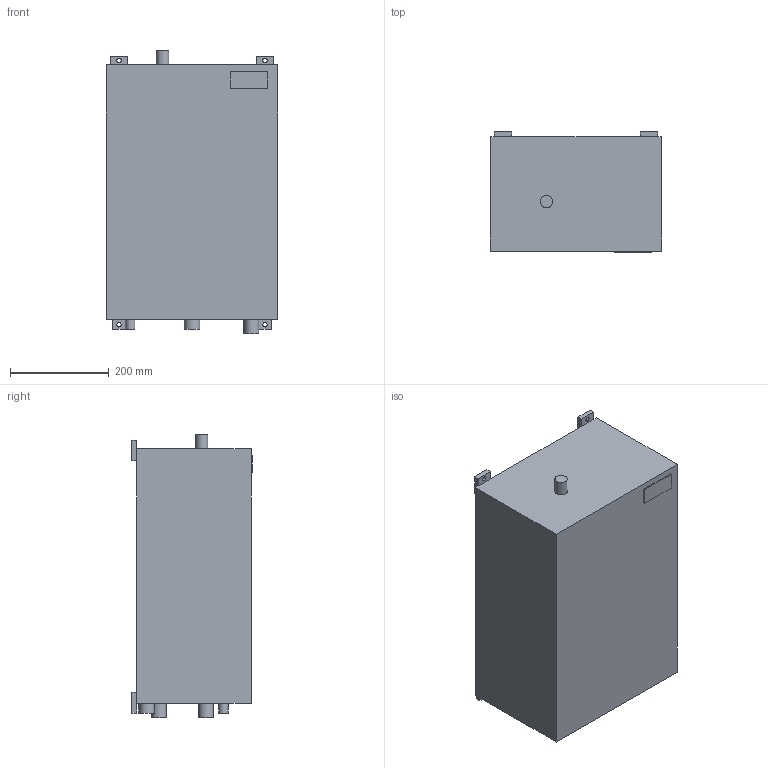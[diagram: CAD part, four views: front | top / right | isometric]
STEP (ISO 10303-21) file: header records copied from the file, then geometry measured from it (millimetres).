
FILE_DESCRIPTION(/* description */ ('AP214'),/* implementation_level */ '2;1');
FILE_NAME(/* name */ 'SLE05-10_SLH03-09-V',/* time_stamp */ '2018-04-05T09:57:20+02:00',/* author */ ('M.Schreck'),/* organization */ ('Hygromatik'),/* preprocessor_version */ 'ST-DEVELOPER v16.7',/* originating_system */ 'DEX',/* authorisation */ $);
FILE_SCHEMA (('AUTOMOTIVE_DESIGN {1 0 10303 214 3 1 1}'));
Length unit declared in the file: millimetre
Products named in the file (1): SLE05-10_SLH03-09-V
Bounding box: 346 x 243.4 x 573.47 mm (x, y, z)
Volume: 41214183.1 mm3; surface area: 775557 mm2
Topology: 1 solids, 1 shells, 49 faces, 122 edges, 81 vertices
Faces by surface type: plane 40, cylinder 9
Full cylindrical faces by diameter (mm): 9 x4, 19.05 x1, 25 x1, 30 x2, 32 x1
Entity records: 1384 total; most frequent: CARTESIAN_POINT 230, DIRECTION 224, ORIENTED_EDGE 212, EDGE_CURVE 106, LINE 88, VECTOR 88, VERTEX_POINT 74, EDGE_LOOP 72
